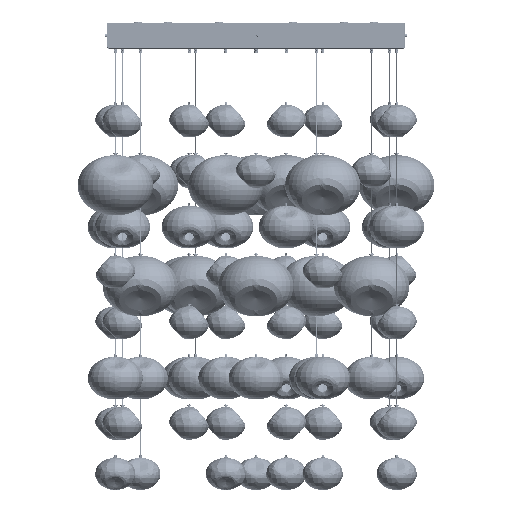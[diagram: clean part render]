
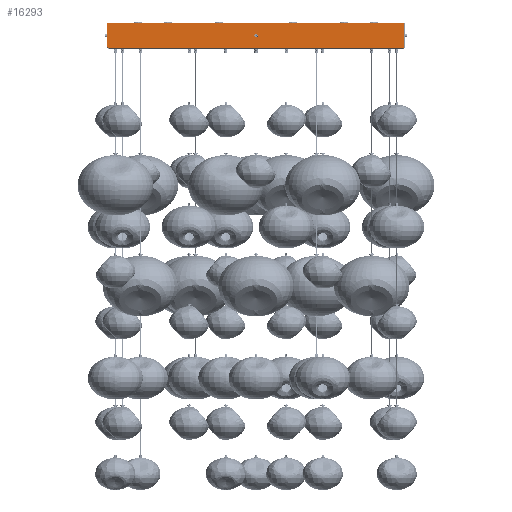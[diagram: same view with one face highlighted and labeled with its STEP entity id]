
A CAD part, front view. The second image highlights one B-rep face of the part: STEP entity #16293.
In plain terms, the highlighted planar face has unit normal (0, -1, 0) as drawn and (-1, 0, 0) by its records, which use the part's own axes.
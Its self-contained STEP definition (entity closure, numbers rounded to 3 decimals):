
#13634=FACE_BOUND('',#22487,.T.);
#16293=ADVANCED_FACE('',(#19259,#13634),#61678,.T.);
#19259=FACE_OUTER_BOUND('',#22486,.T.);
#22486=EDGE_LOOP('',(#36296,#36297,#36298,#36299,#36300,#36301));
#22487=EDGE_LOOP('',(#36302));
#36296=ORIENTED_EDGE('',*,*,#45757,.F.);
#36297=ORIENTED_EDGE('',*,*,#45758,.F.);
#36298=ORIENTED_EDGE('',*,*,#45759,.F.);
#36299=ORIENTED_EDGE('',*,*,#45776,.F.);
#36300=ORIENTED_EDGE('',*,*,#45754,.F.);
#36301=ORIENTED_EDGE('',*,*,#45750,.F.);
#36302=ORIENTED_EDGE('',*,*,#45916,.F.);
#45750=EDGE_CURVE('',#59506,#59507,#54484,.T.);
#45754=EDGE_CURVE('',#59507,#59510,#51514,.T.);
#45757=EDGE_CURVE('',#59512,#59506,#51517,.T.);
#45758=EDGE_CURVE('',#59513,#59512,#51518,.T.);
#45759=EDGE_CURVE('',#59514,#59513,#51519,.T.);
#45776=EDGE_CURVE('',#59510,#59514,#54491,.T.);
#45916=EDGE_CURVE('',#59515,#59515,#54542,.T.);
#51514=B_SPLINE_CURVE_WITH_KNOTS('',1,(#358616,#358617),.UNSPECIFIED.,.F.,
 .F.,(2,2),(0.,46.),.UNSPECIFIED.);
#51517=B_SPLINE_CURVE_WITH_KNOTS('',1,(#358622,#358623),.UNSPECIFIED.,.F.,
 .F.,(2,2),(-586.5,0.),.UNSPECIFIED.);
#51518=B_SPLINE_CURVE_WITH_KNOTS('',1,(#358624,#358625),.UNSPECIFIED.,.F.,
 .F.,(2,2),(-49.,0.),.UNSPECIFIED.);
#51519=B_SPLINE_CURVE_WITH_KNOTS('',1,(#358626,#358627),.UNSPECIFIED.,.F.,
 .F.,(2,2),(-586.5,0.),.UNSPECIFIED.);
#54484=(
BOUNDED_CURVE()
B_SPLINE_CURVE(2,(#358606,#358607,#358608),.UNSPECIFIED.,.F.,.F.)
B_SPLINE_CURVE_WITH_KNOTS((3,3),(0.,2.356),.UNSPECIFIED.)
CURVE()
GEOMETRIC_REPRESENTATION_ITEM()
RATIONAL_B_SPLINE_CURVE((1.,0.707,1.))
REPRESENTATION_ITEM('')
);
#54491=(
BOUNDED_CURVE()
B_SPLINE_CURVE(2,(#358665,#358666,#358667),.UNSPECIFIED.,.F.,.F.)
B_SPLINE_CURVE_WITH_KNOTS((3,3),(0.,2.356),.UNSPECIFIED.)
CURVE()
GEOMETRIC_REPRESENTATION_ITEM()
RATIONAL_B_SPLINE_CURVE((1.,0.707,1.))
REPRESENTATION_ITEM('')
);
#54542=(
BOUNDED_CURVE()
B_SPLINE_CURVE(2,(#359008,#359009,#359010,#359011,#359012,#359013,#359014,
#359015,#359016),.UNSPECIFIED.,.T.,.F.)
B_SPLINE_CURVE_WITH_KNOTS((3,2,2,2,3),(0.,3.927,7.854,
11.781,15.708),.UNSPECIFIED.)
CURVE()
GEOMETRIC_REPRESENTATION_ITEM()
RATIONAL_B_SPLINE_CURVE((1.,0.707,1.,0.707,1.,0.707,
1.,0.707,1.))
REPRESENTATION_ITEM('')
);
#59506=VERTEX_POINT('',#358361);
#59507=VERTEX_POINT('',#358362);
#59510=VERTEX_POINT('',#358365);
#59512=VERTEX_POINT('',#358367);
#59513=VERTEX_POINT('',#358368);
#59514=VERTEX_POINT('',#358369);
#59515=VERTEX_POINT('',#358370);
#61678=PLANE('',#69276);
#69276=AXIS2_PLACEMENT_3D('',#358098,#72101,$);
#72101=DIRECTION('',(-1.,0.,0.));
#358098=CARTESIAN_POINT('',(-295.,-28.52,351.92));
#358361=CARTESIAN_POINT('',(-295.,-23.5,-293.5));
#358362=CARTESIAN_POINT('',(-295.,-22.,-295.));
#358365=CARTESIAN_POINT('',(-295.,24.,-295.));
#358367=CARTESIAN_POINT('',(-295.,-23.5,293.));
#358368=CARTESIAN_POINT('',(-295.,25.5,293.));
#358369=CARTESIAN_POINT('',(-295.,25.5,-293.5));
#358370=CARTESIAN_POINT('',(-295.,0.5,2.5));
#358606=CARTESIAN_POINT('',(-295.,-23.5,-293.5));
#358607=CARTESIAN_POINT('',(-295.,-23.5,-295.));
#358608=CARTESIAN_POINT('',(-295.,-22.,-295.));
#358616=CARTESIAN_POINT('',(-295.,-22.,-295.));
#358617=CARTESIAN_POINT('',(-295.,24.,-295.));
#358622=CARTESIAN_POINT('',(-295.,-23.5,293.));
#358623=CARTESIAN_POINT('',(-295.,-23.5,-293.5));
#358624=CARTESIAN_POINT('',(-295.,25.5,293.));
#358625=CARTESIAN_POINT('',(-295.,-23.5,293.));
#358626=CARTESIAN_POINT('',(-295.,25.5,-293.5));
#358627=CARTESIAN_POINT('',(-295.,25.5,293.));
#358665=CARTESIAN_POINT('',(-295.,24.,-295.));
#358666=CARTESIAN_POINT('',(-295.,25.5,-295.));
#358667=CARTESIAN_POINT('',(-295.,25.5,-293.5));
#359008=CARTESIAN_POINT('',(-295.,0.5,2.5));
#359009=CARTESIAN_POINT('',(-295.,3.,2.5));
#359010=CARTESIAN_POINT('',(-295.,3.,0.));
#359011=CARTESIAN_POINT('',(-295.,3.,-2.5));
#359012=CARTESIAN_POINT('',(-295.,0.5,-2.5));
#359013=CARTESIAN_POINT('',(-295.,-2.,-2.5));
#359014=CARTESIAN_POINT('',(-295.,-2.,0.));
#359015=CARTESIAN_POINT('',(-295.,-2.,2.5));
#359016=CARTESIAN_POINT('',(-295.,0.5,2.5));
